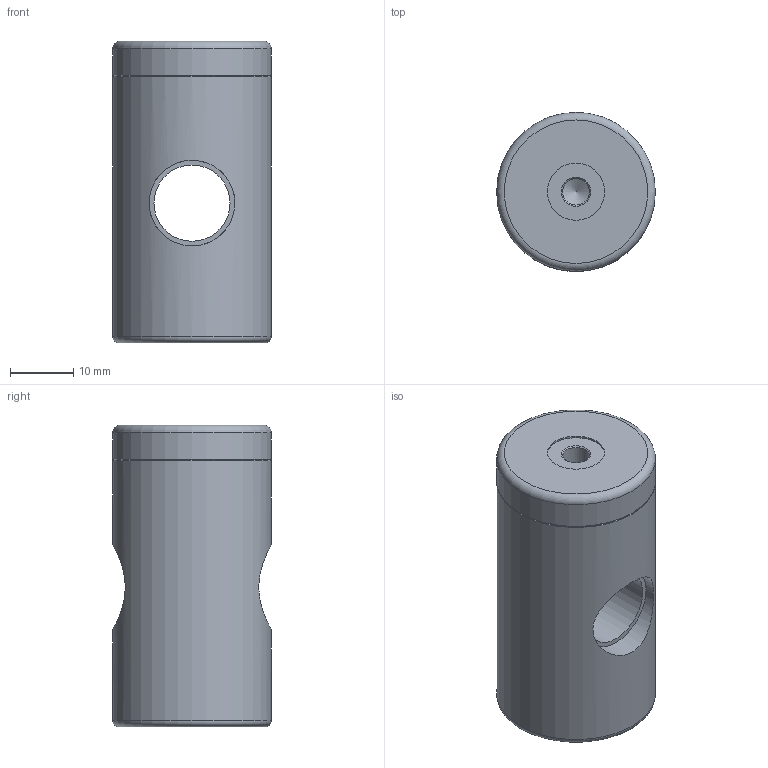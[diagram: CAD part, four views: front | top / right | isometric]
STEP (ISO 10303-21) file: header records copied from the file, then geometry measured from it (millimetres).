
FILE_DESCRIPTION(('STEP AP242'),'1');
FILE_NAME('V.5012 Feststellpatrone.stp','2026-04-23T09:33:30',(' '),(' '),'Spatial InterOp 3D',' ',' ');
FILE_SCHEMA(('AP242_MANAGED_MODEL_BASED_3D_ENGINEERING_MIM_LF {1 0 10303 442 1 1 4}'));
Length unit declared in the file: millimetre
Products named in the file (1): V.5012 Feststellpatrone
Bounding box: 25 x 25 x 47.5 mm (x, y, z)
Volume: 20219.9 mm3; surface area: 5424.7 mm2
Topology: 1 solids, 1 shells, 19 faces, 36 edges, 22 vertices
Faces by surface type: cylinder 8, plane 5, cone 4, torus 2
Full cylindrical faces by diameter (mm): 4.2 x2, 9 x1, 12 x1, 13.5 x2, 25 x2
Entity records: 795 total; most frequent: CARTESIAN_POINT 225, DIRECTION 74, EDGE_LOOP 38, ORIENTED_EDGE 38, AXIS2_PLACEMENT_3D 37, FACE_OUTER_BOUND 29, STYLED_ITEM 20, PRESENTATION_STYLE_ASSIGNMENT 20
